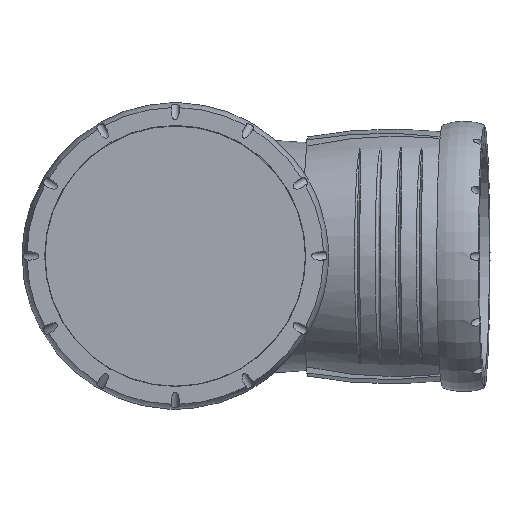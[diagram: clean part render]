
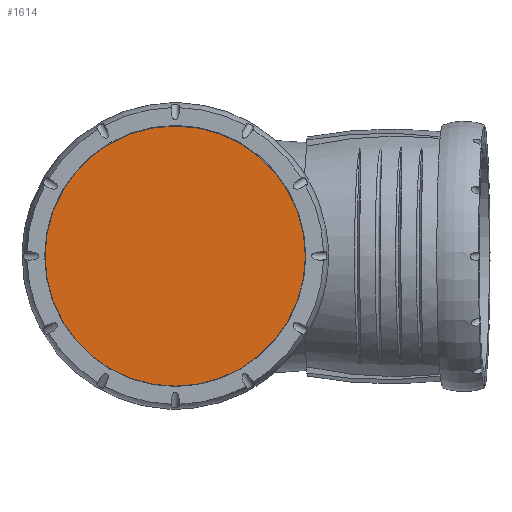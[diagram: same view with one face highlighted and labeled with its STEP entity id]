
A CAD part, top view. The second image highlights one B-rep face of the part: STEP entity #1614.
In plain terms, the highlighted planar face has unit normal (0, 0, 1).
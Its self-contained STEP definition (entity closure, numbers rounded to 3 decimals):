
#222=PLANE('',#1742);
#300=FACE_OUTER_BOUND('',#408,.T.);
#408=EDGE_LOOP('',(#1042));
#546=CIRCLE('',#1743,63.);
#622=VERTEX_POINT('',#2506);
#795=EDGE_CURVE('',#622,#622,#546,.T.);
#1042=ORIENTED_EDGE('',*,*,#795,.T.);
#1614=ADVANCED_FACE('',(#300),#222,.T.);
#1742=AXIS2_PLACEMENT_3D('',#2505,#1933,#1934);
#1743=AXIS2_PLACEMENT_3D('',#2507,#1935,#1936);
#1933=DIRECTION('center_axis',(0.,0.,
1.));
#1934=DIRECTION('ref_axis',(0.,1.,0.));
#1935=DIRECTION('center_axis',(0.,0.,
1.));
#1936=DIRECTION('ref_axis',(0.,1.,0.));
#2505=CARTESIAN_POINT('Origin',(0.,0.,
233.));
#2506=CARTESIAN_POINT('',(-63.,0.,233.));
#2507=CARTESIAN_POINT('Origin',(0.,0.,
233.));
